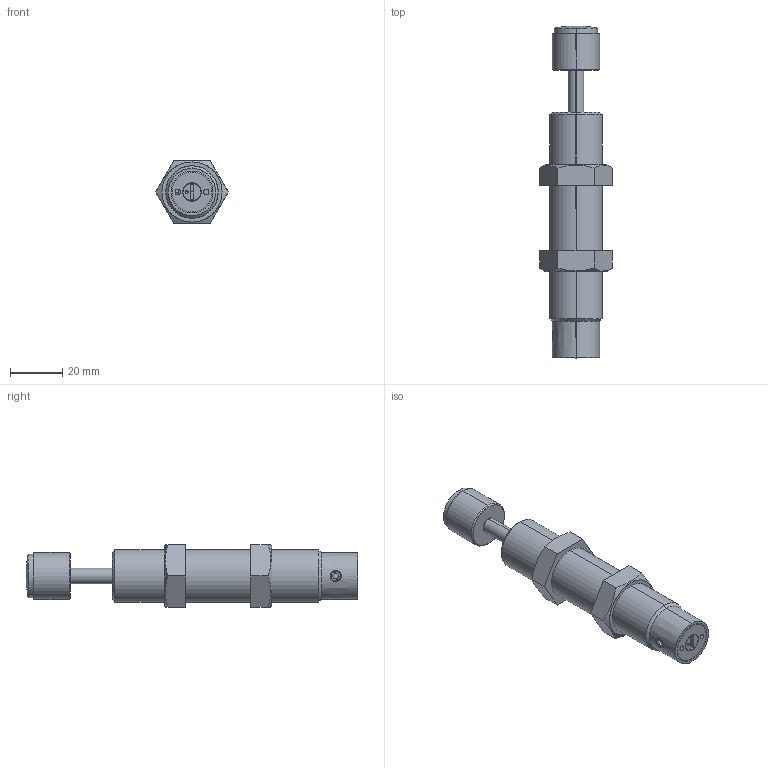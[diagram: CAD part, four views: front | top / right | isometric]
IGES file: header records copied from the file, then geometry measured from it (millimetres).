
Start section: SolidWorks IGES file using analytic representation for surfaces
Bounding box: 27.71 x 127 x 24 mm (x, y, z)
Surface area: 11347 mm2 (no closed solid volume)
Topology: 0 solids, 0 shells, 99 faces, 1480 edges, 1477 vertices
Faces by surface type: revolution 58, bspline 41
